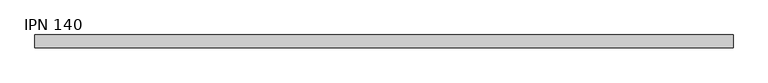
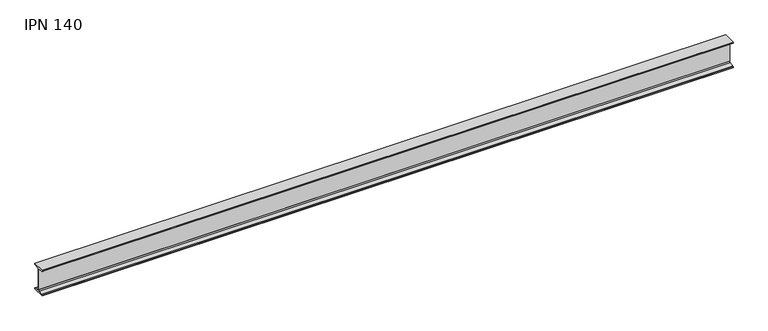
"""IFC4 building model written with IfcOpenShell, lengths in millimetres: beam geometry, IPN - Secciones en I con alas cónicas : IPN 140."""

from ifc_helpers import new_model, si_unit, point, frame, frame_2d, origin, place, context, project, spatial, polyline, circle_curve, trimmed, segment, composite_curve, outline, extrude, source, transform, mapped, element, save


def ipn_140_844413e8(model_context):
    return source(origin(), model_context, "Body", "SweptSolid", [
        extrude(outline(composite_curve([segment(polyline([(33.0, 70.0), (33.0, 66.6671583)]), True, "CONTINUOUS"), segment(trimmed(circle_curve(frame_2d((29.6, 66.6671583)), 3.4), [point((33.0, 66.6671583))], [point((30.0714027, 63.2999964))], False, "CARTESIAN"), True, "CONTINUOUS"), segment(polyline([(30.0714027, 63.2999964), (7.7597073, 60.176359)]), True, "CONTINUOUS"), segment(trimmed(circle_curve(frame_2d((8.55, 54.5314111)), 5.7), [point((7.7597073, 60.176359))], [point((2.85, 54.5314111))], True, "CARTESIAN"), True, "CONTINUOUS"), segment(polyline([(2.85, 54.5314111), (2.85, -54.5314111)]), True, "CONTINUOUS"), segment(trimmed(circle_curve(frame_2d((8.55, -54.5314111)), 5.7), [point((2.85, -54.5314111))], [point((7.7597073, -60.176359))], True, "CARTESIAN"), True, "CONTINUOUS"), segment(polyline([(7.7597073, -60.176359), (30.0714027, -63.2999964)]), True, "CONTINUOUS"), segment(trimmed(circle_curve(frame_2d((29.6, -66.6671583)), 3.4), [point((30.0714027, -63.2999964))], [point((33.0, -66.6671583))], False, "CARTESIAN"), True, "CONTINUOUS"), segment(polyline([(33.0, -66.6671583), (33.0, -70.0), (-33.0, -70.0), (-33.0, -66.6671583)]), True, "CONTINUOUS"), segment(trimmed(circle_curve(frame_2d((-29.6, -66.6671583)), 3.4), [point((-33.0, -66.6671583))], [point((-30.0714027, -63.2999964))], False, "CARTESIAN"), True, "CONTINUOUS"), segment(polyline([(-30.0714027, -63.2999964), (-7.7597073, -60.176359)]), True, "CONTINUOUS"), segment(trimmed(circle_curve(frame_2d((-8.55, -54.5314111)), 5.7), [point((-7.7597073, -60.176359))], [point((-2.85, -54.5314111))], True, "CARTESIAN"), True, "CONTINUOUS"), segment(polyline([(-2.85, -54.5314111), (-2.85, 54.5314111)]), True, "CONTINUOUS"), segment(trimmed(circle_curve(frame_2d((-8.55, 54.5314111)), 5.7), [point((-2.85, 54.5314111))], [point((-7.7597073, 60.176359))], True, "CARTESIAN"), True, "CONTINUOUS"), segment(polyline([(-7.7597073, 60.176359), (-30.0714027, 63.2999964)]), True, "CONTINUOUS"), segment(trimmed(circle_curve(frame_2d((-29.6, 66.6671583)), 3.4), [point((-30.0714027, 63.2999964))], [point((-33.0, 66.6671583))], False, "CARTESIAN"), True, "CONTINUOUS"), segment(polyline([(-33.0, 66.6671583), (-33.0, 70.0), (33.0, 70.0)]), True, "CONTINUOUS")], self_intersect=False)), frame((-1796.9494262, 0.0, 0.0), z_axis=(1.0, 0.0, 0.0), x_axis=(0.0, 1.0, 0.0)), (0.0, 0.0, 1.0), 3603.9494262),
    ])


if __name__ == "__main__":
    model = new_model("IFC4")
    model_context = context("Model", 3, world=origin())
    ifc_project = project(units=[si_unit("LENGTHUNIT", "METRE", prefix="MILLI")], contexts=[model_context])
    site = spatial("IfcSite", under=ifc_project)
    building = spatial("IfcBuilding", under=site)
    placement = place(None, origin())
    ipn_140_shape = ipn_140_844413e8(model_context)
    element("IfcBeam", 1, ObjectType="IPN - Secciones en I con alas cónicas : IPN 140", at=placement, inside=building, context=model_context, shape_type="MappedRepresentation", body=[
        mapped(ipn_140_shape, transform((0.0, 0.0, 0.0), x_axis=(1.0, 0.0, 0.0), y_axis=(0.0, 1.0, 0.0), z_axis=(0.0, 0.0, 1.0))),
    ])
    save(model, "model.ifc")
